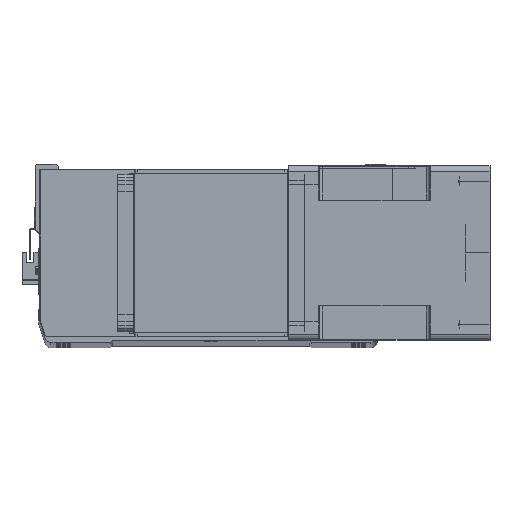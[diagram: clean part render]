
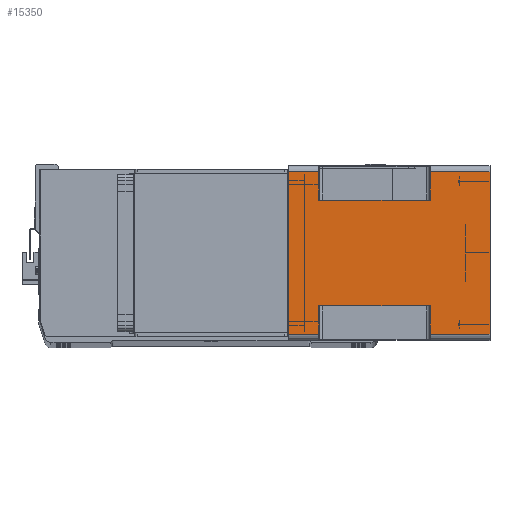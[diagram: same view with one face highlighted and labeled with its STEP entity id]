
A CAD part, top view. The second image highlights one B-rep face of the part: STEP entity #15350.
In plain terms, the highlighted planar face has unit normal (0, 0, 1) as drawn and (1, 0, 0) by its records, which use the part's own axes.
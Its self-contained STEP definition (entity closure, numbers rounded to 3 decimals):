
#380 = DIRECTION ( 'NONE',  ( 0., 1., 0. ) ) ;
#503 = VECTOR ( 'NONE', #17064, 1000. ) ;
#583 = VERTEX_POINT ( 'NONE', #4289 ) ;
#662 = EDGE_CURVE ( 'NONE', #583, #24200, #31852, .T. ) ;
#834 = VECTOR ( 'NONE', #18173, 1000. ) ;
#1337 = CARTESIAN_POINT ( 'NONE',  ( 71., -66., -164. ) ) ;
#1380 = CARTESIAN_POINT ( 'NONE',  ( 71., -66., -164. ) ) ;
#4289 = CARTESIAN_POINT ( 'NONE',  ( 71., 66., -164. ) ) ;
#4562 = EDGE_CURVE ( 'NONE', #24200, #9647, #28604, .T. ) ;
#5339 = CARTESIAN_POINT ( 'NONE',  ( 71., 66., -115.5 ) ) ;
#6089 = ORIENTED_EDGE ( 'NONE', *, *, #4562, .T. ) ;
#6485 = VECTOR ( 'NONE', #24235, 1000. ) ;
#6981 = VECTOR ( 'NONE', #26095, 1000. ) ;
#7116 = DIRECTION ( 'NONE',  ( 1., 0., 0. ) ) ;
#7293 = LINE ( 'NONE', #18862, #22718 ) ;
#7346 = LINE ( 'NONE', #1337, #503 ) ;
#7377 = CARTESIAN_POINT ( 'NONE',  ( 71., 43., -164. ) ) ;
#7919 = CARTESIAN_POINT ( 'NONE',  ( 71., -66., -115.5 ) ) ;
#7931 = ORIENTED_EDGE ( 'NONE', *, *, #29070, .F. ) ;
#8442 = ORIENTED_EDGE ( 'NONE', *, *, #9790, .T. ) ;
#8579 = CARTESIAN_POINT ( 'NONE',  ( 71., -43., -24.5 ) ) ;
#9193 = ORIENTED_EDGE ( 'NONE', *, *, #662, .T. ) ;
#9423 = LINE ( 'NONE', #15720, #6981 ) ;
#9478 = ORIENTED_EDGE ( 'NONE', *, *, #25172, .F. ) ;
#9629 = ORIENTED_EDGE ( 'NONE', *, *, #31772, .F. ) ;
#9647 = VERTEX_POINT ( 'NONE', #28127 ) ;
#9790 = EDGE_CURVE ( 'NONE', #14789, #24207, #12167, .T. ) ;
#9939 = ORIENTED_EDGE ( 'NONE', *, *, #21144, .F. ) ;
#10068 = DIRECTION ( 'NONE',  ( 0., 1., 0. ) ) ;
#10118 = FACE_OUTER_BOUND ( 'NONE', #26296, .T. ) ;
#10251 = ORIENTED_EDGE ( 'NONE', *, *, #18261, .T. ) ;
#10550 = DIRECTION ( 'NONE',  ( 0., 0., 1. ) ) ;
#10781 = DIRECTION ( 'NONE',  ( 0., -1., 0. ) ) ;
#12027 = VECTOR ( 'NONE', #25165, 1000. ) ;
#12122 = VERTEX_POINT ( 'NONE', #15853 ) ;
#12167 = LINE ( 'NONE', #32245, #6485 ) ;
#12781 = VECTOR ( 'NONE', #19467, 1000. ) ;
#12931 = VECTOR ( 'NONE', #380, 1000. ) ;
#13642 = ORIENTED_EDGE ( 'NONE', *, *, #30690, .T. ) ;
#14789 = VERTEX_POINT ( 'NONE', #28115 ) ;
#14998 = CARTESIAN_POINT ( 'NONE',  ( 71., -66., -164. ) ) ;
#15158 = LINE ( 'NONE', #17984, #27307 ) ;
#15350 = ADVANCED_FACE ( 'NONE', ( #10118 ), #20162, .T. ) ;
#15720 = CARTESIAN_POINT ( 'NONE',  ( 71., -43., -164. ) ) ;
#15745 = VERTEX_POINT ( 'NONE', #25575 ) ;
#15853 = CARTESIAN_POINT ( 'NONE',  ( 71., -66., -115.5 ) ) ;
#16810 = EDGE_CURVE ( 'NONE', #24787, #20831, #22114, .T. ) ;
#17064 = DIRECTION ( 'NONE',  ( 0., 0., 1. ) ) ;
#17423 = AXIS2_PLACEMENT_3D ( 'NONE', #20268, #7116, #17449 ) ;
#17449 = DIRECTION ( 'NONE',  ( 0., 1., 0. ) ) ;
#17714 = VERTEX_POINT ( 'NONE', #31695 ) ;
#17984 = CARTESIAN_POINT ( 'NONE',  ( 71., -66., -164. ) ) ;
#18173 = DIRECTION ( 'NONE',  ( 0., 0., -1. ) ) ;
#18261 = EDGE_CURVE ( 'NONE', #24787, #23462, #7293, .T. ) ;
#18345 = CARTESIAN_POINT ( 'NONE',  ( 71., 66., -164. ) ) ;
#18445 = VERTEX_POINT ( 'NONE', #14998 ) ;
#18793 = CARTESIAN_POINT ( 'NONE',  ( 71., 43., -115.5 ) ) ;
#18862 = CARTESIAN_POINT ( 'NONE',  ( 71., -43., -24.5 ) ) ;
#19467 = DIRECTION ( 'NONE',  ( 0., 0., 1. ) ) ;
#20162 = PLANE ( 'NONE',  #17423 ) ;
#20268 = CARTESIAN_POINT ( 'NONE',  ( 71., -66., -164. ) ) ;
#20405 = VECTOR ( 'NONE', #23455, 1000. ) ;
#20831 = VERTEX_POINT ( 'NONE', #33557 ) ;
#21144 = EDGE_CURVE ( 'NONE', #15745, #23462, #9423, .T. ) ;
#22114 = LINE ( 'NONE', #1380, #12781 ) ;
#22386 = ORIENTED_EDGE ( 'NONE', *, *, #27422, .T. ) ;
#22657 = LINE ( 'NONE', #26054, #12931 ) ;
#22718 = VECTOR ( 'NONE', #32005, 1000. ) ;
#23293 = ORIENTED_EDGE ( 'NONE', *, *, #29927, .T. ) ;
#23366 = LINE ( 'NONE', #30124, #12027 ) ;
#23455 = DIRECTION ( 'NONE',  ( 0., -1., 0. ) ) ;
#23462 = VERTEX_POINT ( 'NONE', #8579 ) ;
#23507 = LINE ( 'NONE', #7377, #834 ) ;
#24200 = VERTEX_POINT ( 'NONE', #5339 ) ;
#24207 = VERTEX_POINT ( 'NONE', #31003 ) ;
#24235 = DIRECTION ( 'NONE',  ( 0., 1., 0. ) ) ;
#24787 = VERTEX_POINT ( 'NONE', #31756 ) ;
#25165 = DIRECTION ( 'NONE',  ( 0., 0., 1. ) ) ;
#25172 = EDGE_CURVE ( 'NONE', #14789, #9647, #23507, .T. ) ;
#25575 = CARTESIAN_POINT ( 'NONE',  ( 71., -43., -115.5 ) ) ;
#26054 = CARTESIAN_POINT ( 'NONE',  ( 71., -66., 0. ) ) ;
#26095 = DIRECTION ( 'NONE',  ( 0., 0., 1. ) ) ;
#26296 = EDGE_LOOP ( 'NONE', ( #9939, #22386, #9629, #13642, #9193, #6089, #9478, #8442, #23293, #7931, #32235, #10251 ) ) ;
#27287 = LINE ( 'NONE', #7919, #20405 ) ;
#27307 = VECTOR ( 'NONE', #10068, 1000. ) ;
#27422 = EDGE_CURVE ( 'NONE', #15745, #12122, #27287, .T. ) ;
#28115 = CARTESIAN_POINT ( 'NONE',  ( 71., 43., -24.5 ) ) ;
#28127 = CARTESIAN_POINT ( 'NONE',  ( 71., 43., -115.5 ) ) ;
#28604 = LINE ( 'NONE', #18793, #30201 ) ;
#29070 = EDGE_CURVE ( 'NONE', #20831, #17714, #22657, .T. ) ;
#29927 = EDGE_CURVE ( 'NONE', #24207, #17714, #23366, .T. ) ;
#30124 = CARTESIAN_POINT ( 'NONE',  ( 71., 66., -164. ) ) ;
#30201 = VECTOR ( 'NONE', #10781, 1000. ) ;
#30690 = EDGE_CURVE ( 'NONE', #18445, #583, #15158, .T. ) ;
#31003 = CARTESIAN_POINT ( 'NONE',  ( 71., 66., -24.5 ) ) ;
#31695 = CARTESIAN_POINT ( 'NONE',  ( 71., 66., 0. ) ) ;
#31756 = CARTESIAN_POINT ( 'NONE',  ( 71., -66., -24.5 ) ) ;
#31772 = EDGE_CURVE ( 'NONE', #18445, #12122, #7346, .T. ) ;
#31852 = LINE ( 'NONE', #18345, #32275 ) ;
#32005 = DIRECTION ( 'NONE',  ( 0., 1., 0. ) ) ;
#32235 = ORIENTED_EDGE ( 'NONE', *, *, #16810, .F. ) ;
#32245 = CARTESIAN_POINT ( 'NONE',  ( 71., -66., -24.5 ) ) ;
#32275 = VECTOR ( 'NONE', #10550, 1000. ) ;
#33557 = CARTESIAN_POINT ( 'NONE',  ( 71., -66., 0. ) ) ;
